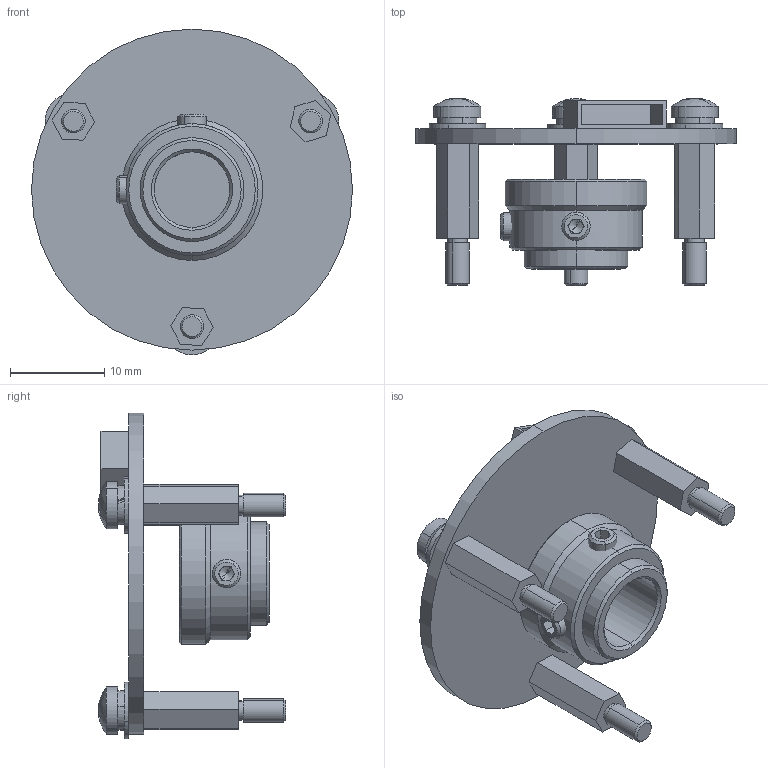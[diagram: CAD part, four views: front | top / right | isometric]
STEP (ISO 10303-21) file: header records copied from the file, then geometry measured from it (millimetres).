
FILE_DESCRIPTION (( 'STEP AP203' ), '1' );
FILE_NAME ('SRMA34分体式磁编直轴φ8.STEP', '2022-05-04T08:30:08', ( '' ), ( '' ), 'SwSTEP 2.0', 'SolidWorks 2016', '' );
FILE_SCHEMA (( 'CONFIG_CONTROL_DESIGN' ));
Length unit declared in the file: millimetre
Products named in the file (1): SRMA34煦极宒棠晤眻粣耳8
Bounding box: 34 x 19.82 x 34.5 mm (x, y, z)
Volume: 3139.6 mm3; surface area: 4891.9 mm2
Topology: 17 solids, 17 shells, 292 faces, 688 edges, 435 vertices
Faces by surface type: plane 140, cylinder 100, cone 42, sphere 6, torus 4
Entity records: 8579 total; most frequent: CARTESIAN_POINT 1732, DIRECTION 1490, ORIENTED_EDGE 1348, EDGE_CURVE 674, AXIS2_PLACEMENT_3D 583, VERTEX_POINT 435, EDGE_LOOP 329, VECTOR 324
